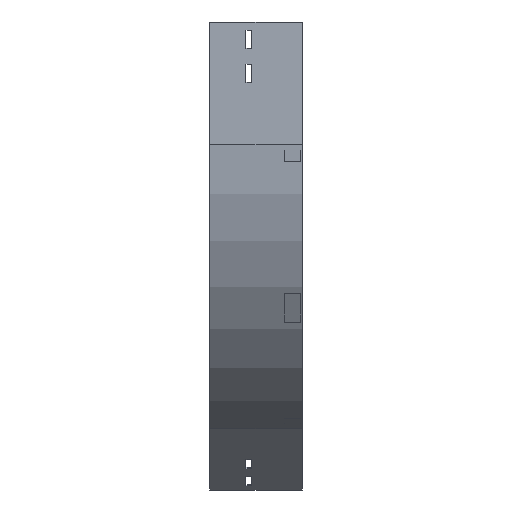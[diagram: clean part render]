
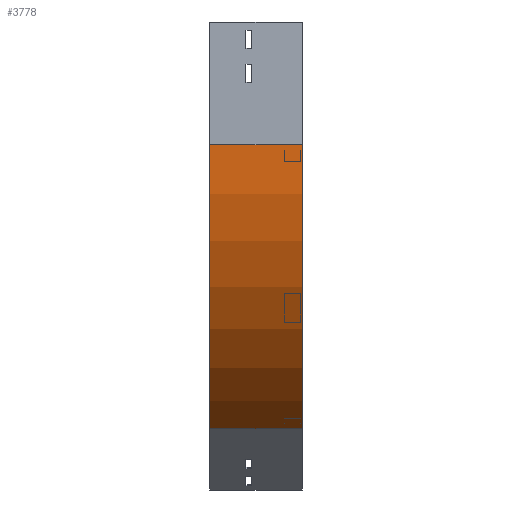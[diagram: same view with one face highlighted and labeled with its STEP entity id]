
A CAD part, left-side view. The second image highlights one B-rep face of the part: STEP entity #3778.
In plain terms, the highlighted cylindrical face has radius 400 mm (diameter 800 mm), a partial arc.
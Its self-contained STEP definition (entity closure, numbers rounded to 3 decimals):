
#6 = CARTESIAN_POINT ( 'NONE',  ( 400., 0., -150. ) ) ;
#102 = CARTESIAN_POINT ( 'NONE',  ( 0., 112.5, -150. ) ) ;
#134 = DIRECTION ( 'NONE',  ( -1., 0., 0. ) ) ;
#273 = VECTOR ( 'NONE', #3591, 1000. ) ;
#276 = VECTOR ( 'NONE', #2001, 1000. ) ;
#325 = VERTEX_POINT ( 'NONE', #2847 ) ;
#533 = CARTESIAN_POINT ( 'NONE',  ( 200., 0., -496.41 ) ) ;
#609 = DIRECTION ( 'NONE',  ( 0., -1., 0. ) ) ;
#639 = ORIENTED_EDGE ( 'NONE', *, *, #2255, .T. ) ;
#718 = VERTEX_POINT ( 'NONE', #102 ) ;
#726 = CARTESIAN_POINT ( 'NONE',  ( 400., 112.5, -150. ) ) ;
#1046 = LINE ( 'NONE', #1443, #276 ) ;
#1301 = AXIS2_PLACEMENT_3D ( 'NONE', #1619, #3677, #134 ) ;
#1412 = CARTESIAN_POINT ( 'NONE',  ( 200., 0., -496.41 ) ) ;
#1443 = CARTESIAN_POINT ( 'NONE',  ( 0., 0., -150. ) ) ;
#1494 = CIRCLE ( 'NONE', #1301, 400. ) ;
#1587 = DIRECTION ( 'NONE',  ( 0., -1., 0. ) ) ;
#1619 = CARTESIAN_POINT ( 'NONE',  ( 400., 0., -150. ) ) ;
#1675 = ORIENTED_EDGE ( 'NONE', *, *, #3692, .F. ) ;
#1763 = DIRECTION ( 'NONE',  ( 0., 0., -1. ) ) ;
#1790 = CARTESIAN_POINT ( 'NONE',  ( 0., 0., -150. ) ) ;
#1800 = FACE_OUTER_BOUND ( 'NONE', #2057, .T. ) ;
#2001 = DIRECTION ( 'NONE',  ( 0., -1., 0. ) ) ;
#2057 = EDGE_LOOP ( 'NONE', ( #3354, #1675, #639, #3066 ) ) ;
#2255 = EDGE_CURVE ( 'NONE', #718, #325, #2771, .T. ) ;
#2381 = VERTEX_POINT ( 'NONE', #533 ) ;
#2562 = VERTEX_POINT ( 'NONE', #1790 ) ;
#2621 = EDGE_CURVE ( 'NONE', #2562, #2381, #1494, .T. ) ;
#2688 = LINE ( 'NONE', #1412, #273 ) ;
#2760 = DIRECTION ( 'NONE',  ( -1., 0., 0. ) ) ;
#2771 = CIRCLE ( 'NONE', #3336, 400. ) ;
#2847 = CARTESIAN_POINT ( 'NONE',  ( 200., 112.5, -496.41 ) ) ;
#2880 = AXIS2_PLACEMENT_3D ( 'NONE', #6, #609, #1763 ) ;
#3066 = ORIENTED_EDGE ( 'NONE', *, *, #3465, .T. ) ;
#3237 = CYLINDRICAL_SURFACE ( 'NONE', #2880, 400. ) ;
#3336 = AXIS2_PLACEMENT_3D ( 'NONE', #726, #1587, #2760 ) ;
#3354 = ORIENTED_EDGE ( 'NONE', *, *, #2621, .F. ) ;
#3465 = EDGE_CURVE ( 'NONE', #325, #2381, #2688, .T. ) ;
#3591 = DIRECTION ( 'NONE',  ( 0., -1., 0. ) ) ;
#3677 = DIRECTION ( 'NONE',  ( 0., -1., 0. ) ) ;
#3692 = EDGE_CURVE ( 'NONE', #718, #2562, #1046, .T. ) ;
#3778 = ADVANCED_FACE ( 'NONE', ( #1800 ), #3237, .T. ) ;
